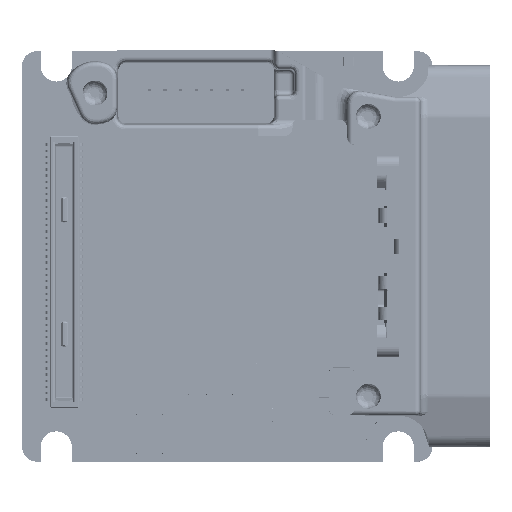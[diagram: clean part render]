
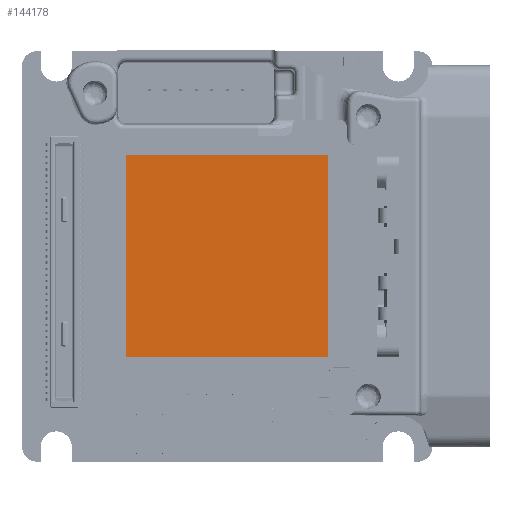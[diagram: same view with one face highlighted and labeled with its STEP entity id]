
A CAD part, top view. The second image highlights one B-rep face of the part: STEP entity #144178.
In plain terms, the highlighted planar face has unit normal (0, 0, 1).
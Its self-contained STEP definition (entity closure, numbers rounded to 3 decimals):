
#15077 = VERTEX_POINT ( 'NONE', #569899 ) ;
#27720 = LINE ( 'NONE', #144003, #184126 ) ;
#65802 = ORIENTED_EDGE ( 'NONE', *, *, #141528, .F. ) ;
#98956 = CARTESIAN_POINT ( 'NONE',  ( 6.5, -6.5, 6.162 ) ) ;
#117566 = VERTEX_POINT ( 'NONE', #495666 ) ;
#119351 = ORIENTED_EDGE ( 'NONE', *, *, #548401, .F. ) ;
#129943 = VECTOR ( 'NONE', #490149, 1000. ) ;
#137573 = FACE_OUTER_BOUND ( 'NONE', #468812, .T. ) ;
#141528 = EDGE_CURVE ( 'NONE', #472951, #15077, #238871, .T. ) ;
#144003 = CARTESIAN_POINT ( 'NONE',  ( -6.5, 6.5, 6.162 ) ) ;
#144178 = ADVANCED_FACE ( 'NONE', ( #137573 ), #625946, .T. ) ;
#145453 = DIRECTION ( 'NONE',  ( 1., 0., 0. ) ) ;
#184126 = VECTOR ( 'NONE', #524147, 1000. ) ;
#226057 = DIRECTION ( 'NONE',  ( 0., 1., 0. ) ) ;
#227024 = DIRECTION ( 'NONE',  ( -1., 0., 0. ) ) ;
#238871 = LINE ( 'NONE', #482927, #683044 ) ;
#240885 = CARTESIAN_POINT ( 'NONE',  ( 6.5, 6.5, 6.162 ) ) ;
#242180 = CARTESIAN_POINT ( 'NONE',  ( 6.5, 6.5, 6.162 ) ) ;
#255357 = EDGE_CURVE ( 'NONE', #117566, #766023, #27720, .T. ) ;
#289975 = CARTESIAN_POINT ( 'NONE',  ( -6.5, -6.5, 6.162 ) ) ;
#401483 = DIRECTION ( 'NONE',  ( 0., 0., 1. ) ) ;
#420113 = AXIS2_PLACEMENT_3D ( 'NONE', #698039, #401483, #145453 ) ;
#468812 = EDGE_LOOP ( 'NONE', ( #65802, #755079, #716441, #119351 ) ) ;
#472951 = VERTEX_POINT ( 'NONE', #98956 ) ;
#482927 = CARTESIAN_POINT ( 'NONE',  ( 6.5, -6.5, 6.162 ) ) ;
#490149 = DIRECTION ( 'NONE',  ( 0., -1., 0. ) ) ;
#495666 = CARTESIAN_POINT ( 'NONE',  ( -6.5, 6.5, 6.162 ) ) ;
#524147 = DIRECTION ( 'NONE',  ( 1., 0., 0. ) ) ;
#548401 = EDGE_CURVE ( 'NONE', #15077, #117566, #590219, .T. ) ;
#558115 = LINE ( 'NONE', #242180, #129943 ) ;
#569899 = CARTESIAN_POINT ( 'NONE',  ( -6.5, -6.5, 6.162 ) ) ;
#589460 = EDGE_CURVE ( 'NONE', #766023, #472951, #558115, .T. ) ;
#590219 = LINE ( 'NONE', #289975, #591328 ) ;
#591328 = VECTOR ( 'NONE', #226057, 1000. ) ;
#625946 = PLANE ( 'NONE',  #420113 ) ;
#683044 = VECTOR ( 'NONE', #227024, 1000. ) ;
#698039 = CARTESIAN_POINT ( 'NONE',  ( -6.5, -6.5, 6.162 ) ) ;
#716441 = ORIENTED_EDGE ( 'NONE', *, *, #255357, .F. ) ;
#755079 = ORIENTED_EDGE ( 'NONE', *, *, #589460, .F. ) ;
#766023 = VERTEX_POINT ( 'NONE', #240885 ) ;
